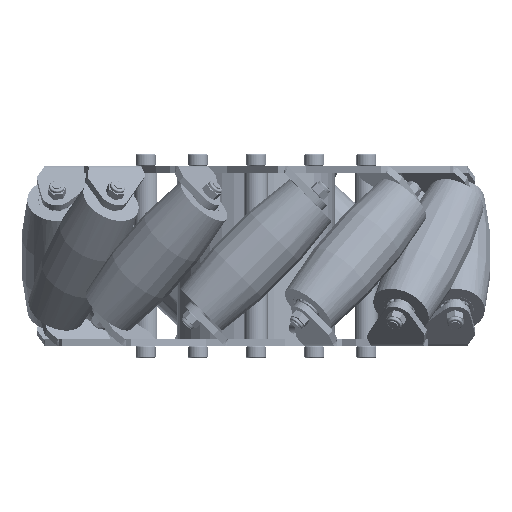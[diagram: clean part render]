
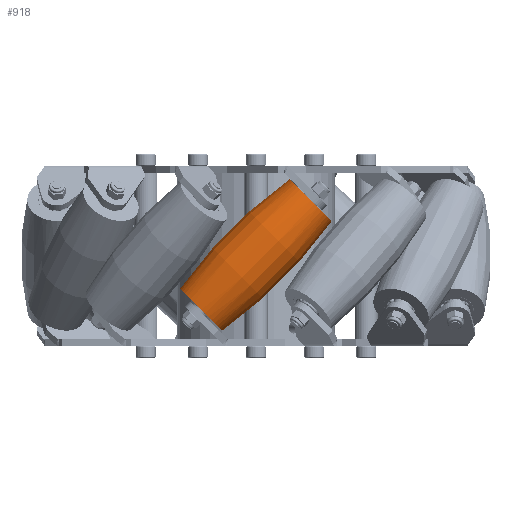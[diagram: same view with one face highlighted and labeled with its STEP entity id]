
A CAD part, front view. The second image highlights one B-rep face of the part: STEP entity #918.
In plain terms, the highlighted face is a revolution surface.
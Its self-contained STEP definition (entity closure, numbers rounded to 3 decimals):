
#771 = PLANE('',#772);
#772 = AXIS2_PLACEMENT_3D('',#773,#774,#775);
#773 = CARTESIAN_POINT('',(23.688,94.,-23.688));
#774 = DIRECTION('',(0.707,0.,-0.707)
  );
#775 = DIRECTION('',(-0.707,0.,-0.707
    ));
#812 = EDGE_CURVE('',#813,#815,#817,.T.);
#813 = VERTEX_POINT('',#814);
#814 = CARTESIAN_POINT('',(32.736,86.,-14.64));
#815 = VERTEX_POINT('',#816);
#816 = CARTESIAN_POINT('',(14.64,86.,-32.736));
#817 = SURFACE_CURVE('',#818,(#823,#834),.PCURVE_S1.);
#818 = CIRCLE('',#819,12.796);
#819 = AXIS2_PLACEMENT_3D('',#820,#821,#822);
#820 = CARTESIAN_POINT('',(23.688,86.,-23.688));
#821 = DIRECTION('',(-0.707,0.,0.707)
  );
#822 = DIRECTION('',(0.707,0.,0.707));
#823 = PCURVE('',#771,#824);
#824 = DEFINITIONAL_REPRESENTATION('',(#825),#833);
#825 = ( BOUNDED_CURVE() B_SPLINE_CURVE(2,(#826,#827,#828,#829,#830,#831
,#832),.UNSPECIFIED.,.T.,.F.) B_SPLINE_CURVE_WITH_KNOTS((1,2,2,2,2,1),(
    -2.094,0.,2.094,4.189,6.283,
8.378),.UNSPECIFIED.) CURVE() GEOMETRIC_REPRESENTATION_ITEM() 
RATIONAL_B_SPLINE_CURVE((1.,0.5,1.,0.5,1.,0.5,1.)) REPRESENTATION_ITEM(
  '') );
#826 = CARTESIAN_POINT('',(-12.796,-8.));
#827 = CARTESIAN_POINT('',(-12.796,14.164));
#828 = CARTESIAN_POINT('',(6.398,3.082));
#829 = CARTESIAN_POINT('',(25.593,-8.));
#830 = CARTESIAN_POINT('',(6.398,-19.082));
#831 = CARTESIAN_POINT('',(-12.796,-30.164));
#832 = CARTESIAN_POINT('',(-12.796,-8.));
#833 = ( GEOMETRIC_REPRESENTATION_CONTEXT(2) 
PARAMETRIC_REPRESENTATION_CONTEXT() REPRESENTATION_CONTEXT('2D SPACE',''
  ) );
#834 = PCURVE('',#835,#846);
#835 = SURFACE_OF_REVOLUTION('',#836,#843);
#836 = B_SPLINE_CURVE_WITH_KNOTS('',5,(#837,#838,#839,#840,#841,#842),
  .UNSPECIFIED.,.F.,.F.,(6,6),(2.975,3.309),
  .PIECEWISE_BEZIER_KNOTS.);
#837 = CARTESIAN_POINT('',(14.64,86.,-32.736));
#838 = CARTESIAN_POINT('',(3.67,86.,-24.932));
#839 = CARTESIAN_POINT('',(-6.647,86.,-16.211));
#840 = CARTESIAN_POINT('',(-16.211,86.,-6.647));
#841 = CARTESIAN_POINT('',(-24.932,86.,3.67));
#842 = CARTESIAN_POINT('',(-32.736,86.,14.64));
#843 = AXIS1_PLACEMENT('',#844,#845);
#844 = CARTESIAN_POINT('',(0.,86.,0.));
#845 = DIRECTION('',(0.707,0.,-0.707)
  );
#846 = DEFINITIONAL_REPRESENTATION('',(#847),#851);
#847 = LINE('',#848,#849);
#848 = CARTESIAN_POINT('',(-3.142,2.975));
#849 = VECTOR('',#850,1.);
#850 = DIRECTION('',(-1.,0.));
#851 = ( GEOMETRIC_REPRESENTATION_CONTEXT(2) 
PARAMETRIC_REPRESENTATION_CONTEXT() REPRESENTATION_CONTEXT('2D SPACE',''
  ) );
#872 = SURFACE_OF_REVOLUTION('',#873,#880);
#873 = B_SPLINE_CURVE_WITH_KNOTS('',5,(#874,#875,#876,#877,#878,#879),
  .UNSPECIFIED.,.F.,.F.,(6,6),(2.975,3.309),
  .PIECEWISE_BEZIER_KNOTS.);
#874 = CARTESIAN_POINT('',(14.64,86.,-32.736));
#875 = CARTESIAN_POINT('',(3.67,86.,-24.932));
#876 = CARTESIAN_POINT('',(-6.647,86.,-16.211));
#877 = CARTESIAN_POINT('',(-16.211,86.,-6.647));
#878 = CARTESIAN_POINT('',(-24.932,86.,3.67));
#879 = CARTESIAN_POINT('',(-32.736,86.,14.64));
#880 = AXIS1_PLACEMENT('',#881,#882);
#881 = CARTESIAN_POINT('',(0.,86.,0.));
#882 = DIRECTION('',(0.707,0.,-0.707)
  );
#918 = ADVANCED_FACE('',(#919),#835,.F.);
#919 = FACE_BOUND('',#920,.T.);
#920 = EDGE_LOOP('',(#921,#945,#946,#970));
#921 = ORIENTED_EDGE('',*,*,#922,.T.);
#922 = EDGE_CURVE('',#923,#813,#925,.T.);
#923 = VERTEX_POINT('',#924);
#924 = CARTESIAN_POINT('',(-14.64,86.,32.736));
#925 = SURFACE_CURVE('',#926,(#931,#938),.PCURVE_S1.);
#926 = CIRCLE('',#927,201.54);
#927 = AXIS2_PLACEMENT_3D('',#928,#929,#930);
#928 = CARTESIAN_POINT('',(-131.479,86.,
    -131.479));
#929 = DIRECTION('',(0.,1.,0.));
#930 = DIRECTION('',(0.,-0.,-1.));
#931 = PCURVE('',#835,#932);
#932 = DEFINITIONAL_REPRESENTATION('',(#933),#937);
#933 = LINE('',#934,#935);
#934 = CARTESIAN_POINT('',(-3.142,7.069));
#935 = VECTOR('',#936,1.);
#936 = DIRECTION('',(-0.,-1.));
#937 = ( GEOMETRIC_REPRESENTATION_CONTEXT(2) 
PARAMETRIC_REPRESENTATION_CONTEXT() REPRESENTATION_CONTEXT('2D SPACE',''
  ) );
#938 = PCURVE('',#872,#939);
#939 = DEFINITIONAL_REPRESENTATION('',(#940),#944);
#940 = LINE('',#941,#942);
#941 = CARTESIAN_POINT('',(-3.142,7.069));
#942 = VECTOR('',#943,1.);
#943 = DIRECTION('',(-0.,-1.));
#944 = ( GEOMETRIC_REPRESENTATION_CONTEXT(2) 
PARAMETRIC_REPRESENTATION_CONTEXT() REPRESENTATION_CONTEXT('2D SPACE',''
  ) );
#945 = ORIENTED_EDGE('',*,*,#812,.T.);
#946 = ORIENTED_EDGE('',*,*,#947,.F.);
#947 = EDGE_CURVE('',#948,#815,#950,.T.);
#948 = VERTEX_POINT('',#949);
#949 = CARTESIAN_POINT('',(-32.736,86.,14.64));
#950 = SURFACE_CURVE('',#951,(#956,#963),.PCURVE_S1.);
#951 = CIRCLE('',#952,201.54);
#952 = AXIS2_PLACEMENT_3D('',#953,#954,#955);
#953 = CARTESIAN_POINT('',(131.479,86.,
    131.479));
#954 = DIRECTION('',(0.,-1.,0.));
#955 = DIRECTION('',(1.,0.,0.));
#956 = PCURVE('',#835,#957);
#957 = DEFINITIONAL_REPRESENTATION('',(#958),#962);
#958 = LINE('',#959,#960);
#959 = CARTESIAN_POINT('',(-6.283,7.069));
#960 = VECTOR('',#961,1.);
#961 = DIRECTION('',(-0.,-1.));
#962 = ( GEOMETRIC_REPRESENTATION_CONTEXT(2) 
PARAMETRIC_REPRESENTATION_CONTEXT() REPRESENTATION_CONTEXT('2D SPACE',''
  ) );
#963 = PCURVE('',#872,#964);
#964 = DEFINITIONAL_REPRESENTATION('',(#965),#969);
#965 = LINE('',#966,#967);
#966 = CARTESIAN_POINT('',(-0.,7.069));
#967 = VECTOR('',#968,1.);
#968 = DIRECTION('',(-0.,-1.));
#969 = ( GEOMETRIC_REPRESENTATION_CONTEXT(2) 
PARAMETRIC_REPRESENTATION_CONTEXT() REPRESENTATION_CONTEXT('2D SPACE',''
  ) );
#970 = ORIENTED_EDGE('',*,*,#971,.F.);
#971 = EDGE_CURVE('',#923,#948,#972,.T.);
#972 = SURFACE_CURVE('',#973,(#978,#985),.PCURVE_S1.);
#973 = CIRCLE('',#974,12.796);
#974 = AXIS2_PLACEMENT_3D('',#975,#976,#977);
#975 = CARTESIAN_POINT('',(-23.688,86.,23.688));
#976 = DIRECTION('',(-0.707,0.,0.707)
  );
#977 = DIRECTION('',(0.707,0.,0.707));
#978 = PCURVE('',#835,#979);
#979 = DEFINITIONAL_REPRESENTATION('',(#980),#984);
#980 = LINE('',#981,#982);
#981 = CARTESIAN_POINT('',(-3.142,3.309));
#982 = VECTOR('',#983,1.);
#983 = DIRECTION('',(-1.,0.));
#984 = ( GEOMETRIC_REPRESENTATION_CONTEXT(2) 
PARAMETRIC_REPRESENTATION_CONTEXT() REPRESENTATION_CONTEXT('2D SPACE',''
  ) );
#985 = PCURVE('',#986,#991);
#986 = PLANE('',#987);
#987 = AXIS2_PLACEMENT_3D('',#988,#989,#990);
#988 = CARTESIAN_POINT('',(-23.688,94.,23.688));
#989 = DIRECTION('',(-0.707,0.,0.707)
  );
#990 = DIRECTION('',(0.707,0.,0.707));
#991 = DEFINITIONAL_REPRESENTATION('',(#992),#996);
#992 = CIRCLE('',#993,12.796);
#993 = AXIS2_PLACEMENT_2D('',#994,#995);
#994 = CARTESIAN_POINT('',(0.,-8.));
#995 = DIRECTION('',(1.,-0.));
#996 = ( GEOMETRIC_REPRESENTATION_CONTEXT(2) 
PARAMETRIC_REPRESENTATION_CONTEXT() REPRESENTATION_CONTEXT('2D SPACE',''
  ) );
